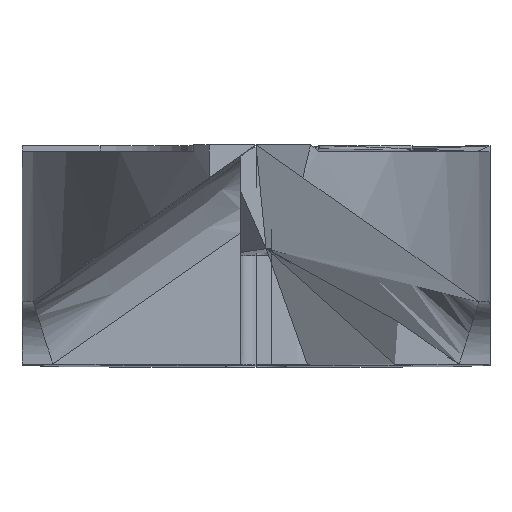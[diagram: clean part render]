
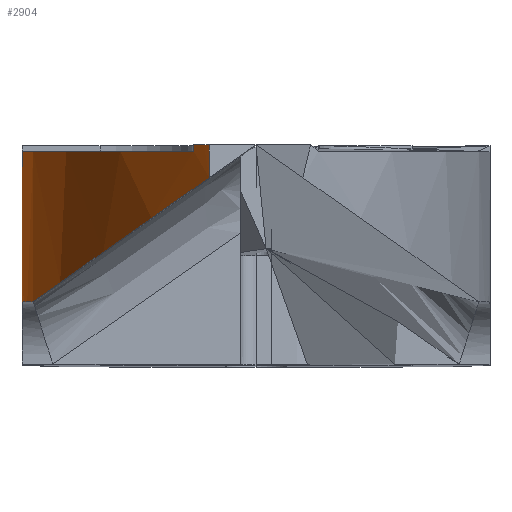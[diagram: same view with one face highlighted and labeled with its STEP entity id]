
A CAD part, top view. The second image highlights one B-rep face of the part: STEP entity #2904.
In plain terms, the highlighted cylindrical face has radius 25 mm (diameter 50 mm), a partial arc.
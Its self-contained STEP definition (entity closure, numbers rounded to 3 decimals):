
#1 = CARTESIAN_POINT ( 'NONE',  ( -7.5, 1.995, 19.834 ) ) ;
#7 = DIRECTION ( 'NONE',  ( 0., 1., 0. ) ) ;
#196 = CARTESIAN_POINT ( 'NONE',  ( -1.5, 7., 36. ) ) ;
#259 = AXIS2_PLACEMENT_3D ( 'NONE', #3135, #1505, #3405 ) ;
#263 = DIRECTION ( 'NONE',  ( 0., 0., 1. ) ) ;
#273 = CIRCLE ( 'NONE', #2715, 25. ) ;
#333 = DIRECTION ( 'NONE',  ( 0., 1., 0. ) ) ;
#541 = CARTESIAN_POINT ( 'NONE',  ( -7.499, 2., 20. ) ) ;
#595 = CARTESIAN_POINT ( 'NONE',  ( -1.5, 5.95, 36. ) ) ;
#716 = ORIENTED_EDGE ( 'NONE', *, *, #2936, .T. ) ;
#721 = LINE ( 'NONE', #1913, #1363 ) ;
#805 = ORIENTED_EDGE ( 'NONE', *, *, #2567, .F. ) ;
#871 = CARTESIAN_POINT ( 'NONE',  ( -6.374, 2.537, 28.446 ) ) ;
#1097 = CARTESIAN_POINT ( 'NONE',  ( -7.499, 2., 20. ) ) ;
#1130 = CARTESIAN_POINT ( 'NONE',  ( 17.5, 7., 19.752 ) ) ;
#1169 = CARTESIAN_POINT ( 'NONE',  ( -1.5, 4.477, 36. ) ) ;
#1192 = FACE_OUTER_BOUND ( 'NONE', #1948, .T. ) ;
#1283 = CARTESIAN_POINT ( 'NONE',  ( -7.141, 2., 23.975 ) ) ;
#1307 = ORIENTED_EDGE ( 'NONE', *, *, #2365, .T. ) ;
#1314 = EDGE_CURVE ( 'NONE', #2194, #2907, #2666, .T. ) ;
#1363 = VECTOR ( 'NONE', #2202, 1000. ) ;
#1410 = DIRECTION ( 'NONE',  ( 0., 0., 1. ) ) ;
#1464 = ORIENTED_EDGE ( 'NONE', *, *, #1653, .F. ) ;
#1505 = DIRECTION ( 'NONE',  ( 0., 1., 0. ) ) ;
#1508 = VERTEX_POINT ( 'NONE', #1283 ) ;
#1587 = VERTEX_POINT ( 'NONE', #3445 ) ;
#1653 = EDGE_CURVE ( 'NONE', #1587, #2907, #273, .T. ) ;
#1811 = EDGE_CURVE ( 'NONE', #1508, #2671, #2260, .T. ) ;
#1825 = VECTOR ( 'NONE', #333, 1000. ) ;
#1831 = CYLINDRICAL_SURFACE ( 'NONE', #1962, 25. ) ;
#1850 = CARTESIAN_POINT ( 'NONE',  ( -2., 4.477, 35.396 ) ) ;
#1902 = CARTESIAN_POINT ( 'NONE',  ( -7.5, 1.985, 19.752 ) ) ;
#1913 = CARTESIAN_POINT ( 'NONE',  ( -7.5, 3.5, 19.752 ) ) ;
#1948 = EDGE_LOOP ( 'NONE', ( #1307, #2653, #2828, #3315, #2038, #1464, #805, #716 ) ) ;
#1960 = CARTESIAN_POINT ( 'NONE',  ( -2., 7., 35.396 ) ) ;
#1962 = AXIS2_PLACEMENT_3D ( 'NONE', #2175, #3528, #263 ) ;
#2009 = CARTESIAN_POINT ( 'NONE',  ( -1.5, 5.95, 36. ) ) ;
#2038 = ORIENTED_EDGE ( 'NONE', *, *, #1314, .T. ) ;
#2144 = EDGE_CURVE ( 'NONE', #2194, #2544, #3348, .T. ) ;
#2175 = CARTESIAN_POINT ( 'NONE',  ( 17.5, 1.954, 19.752 ) ) ;
#2177 = CARTESIAN_POINT ( 'NONE',  ( 17.5, 6.8, 19.752 ) ) ;
#2194 = VERTEX_POINT ( 'NONE', #1960 ) ;
#2202 = DIRECTION ( 'NONE',  ( 0., 1., 0. ) ) ;
#2209 = CARTESIAN_POINT ( 'NONE',  ( -7.141, 2., 23.975 ) ) ;
#2260 =( BOUNDED_CURVE ( )  B_SPLINE_CURVE ( 3, ( #2209, #871, #2466, #595 ),
 .UNSPECIFIED., .F., .T. ) 
 B_SPLINE_CURVE_WITH_KNOTS ( ( 4, 4 ),
 ( 3.311, 3.849 ),
 .UNSPECIFIED. ) 
 CURVE ( )  GEOMETRIC_REPRESENTATION_ITEM ( )  RATIONAL_B_SPLINE_CURVE ( ( 1., 0.976, 0.976, 1. ) ) 
 REPRESENTATION_ITEM ( '' )  );
#2365 = EDGE_CURVE ( 'NONE', #3383, #1508, #3409, .T. ) ;
#2457 = DIRECTION ( 'NONE',  ( 0., 0., 1. ) ) ;
#2466 = CARTESIAN_POINT ( 'NONE',  ( -4.448, 3.885, 32.553 ) ) ;
#2544 = VERTEX_POINT ( 'NONE', #196 ) ;
#2552 = LINE ( 'NONE', #1169, #1825 ) ;
#2567 = EDGE_CURVE ( 'NONE', #2802, #1587, #721, .T. ) ;
#2581 = CARTESIAN_POINT ( 'NONE',  ( -7.5, 1.985, 19.752 ) ) ;
#2618 = B_SPLINE_CURVE_WITH_KNOTS ( 'NONE', 3,
 ( #1902, #1, #2722, #1097 ),
 .UNSPECIFIED., .F., .F.,
 ( 4, 4 ),
 ( 0., 0. ),
 .UNSPECIFIED. ) ;
#2637 = EDGE_CURVE ( 'NONE', #2671, #2544, #2552, .T. ) ;
#2653 = ORIENTED_EDGE ( 'NONE', *, *, #1811, .T. ) ;
#2666 = LINE ( 'NONE', #1850, #3307 ) ;
#2671 = VERTEX_POINT ( 'NONE', #2009 ) ;
#2712 = CARTESIAN_POINT ( 'NONE',  ( -2., 6.8, 35.396 ) ) ;
#2715 = AXIS2_PLACEMENT_3D ( 'NONE', #2177, #7, #2457 ) ;
#2722 = CARTESIAN_POINT ( 'NONE',  ( -7.5, 2., 19.917 ) ) ;
#2802 = VERTEX_POINT ( 'NONE', #2581 ) ;
#2828 = ORIENTED_EDGE ( 'NONE', *, *, #2637, .T. ) ;
#2904 = ADVANCED_FACE ( 'NONE', ( #1192 ), #1831, .T. ) ;
#2907 = VERTEX_POINT ( 'NONE', #2712 ) ;
#2922 = DIRECTION ( 'NONE',  ( 0., -1., 0. ) ) ;
#2936 = EDGE_CURVE ( 'NONE', #2802, #3383, #2618, .T. ) ;
#3040 = DIRECTION ( 'NONE',  ( 0., 1., 0. ) ) ;
#3135 = CARTESIAN_POINT ( 'NONE',  ( 17.5, 2., 19.752 ) ) ;
#3146 = AXIS2_PLACEMENT_3D ( 'NONE', #1130, #3040, #1410 ) ;
#3307 = VECTOR ( 'NONE', #2922, 1000. ) ;
#3315 = ORIENTED_EDGE ( 'NONE', *, *, #2144, .F. ) ;
#3348 = CIRCLE ( 'NONE', #3146, 25. ) ;
#3383 = VERTEX_POINT ( 'NONE', #541 ) ;
#3405 = DIRECTION ( 'NONE',  ( 0., 0., 1. ) ) ;
#3409 = CIRCLE ( 'NONE', #259, 25. ) ;
#3445 = CARTESIAN_POINT ( 'NONE',  ( -7.5, 6.8, 19.752 ) ) ;
#3528 = DIRECTION ( 'NONE',  ( 0., 1., 0. ) ) ;
